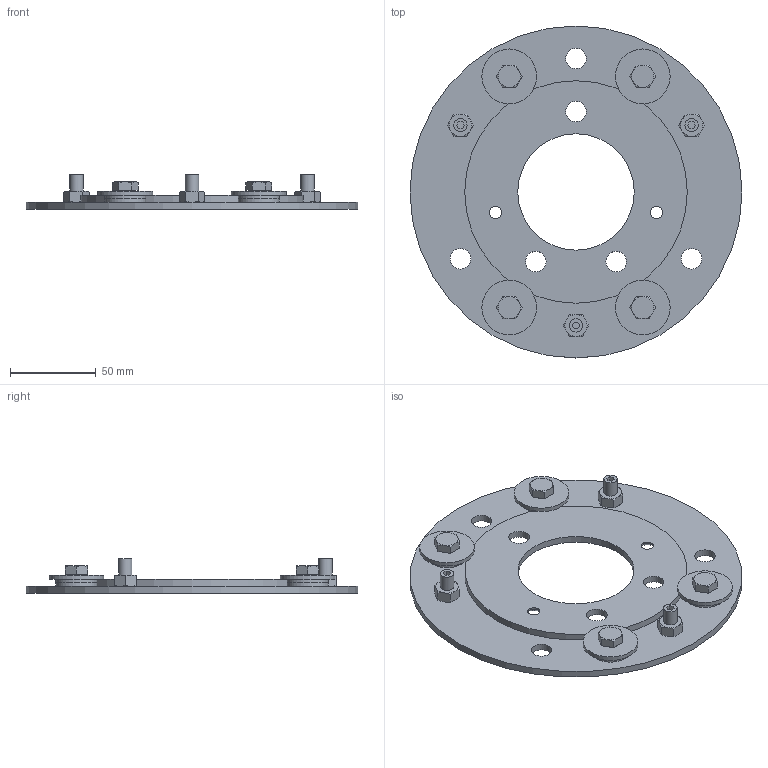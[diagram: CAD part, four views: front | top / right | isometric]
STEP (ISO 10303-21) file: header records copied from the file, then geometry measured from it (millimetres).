
FILE_DESCRIPTION(/* description */ (''),/* implementation_level */ '2;1');
FILE_NAME(/* name */ 'SH-FS-P_Floor_Suppoprts_fixing_system.stp',/* time_stamp */ '2025-11-14T10:21:05+01:00',/* author */ (''),/* organization */ (''),/* preprocessor_version */ 'ST-DEVELOPER v20',/* originating_system */ 'SIEMENS PLM Software NX2412.4001',/* authorisation */ '');
FILE_SCHEMA (('AP203_CONFIGURATION_CONTROLLED_3D_DESIGN_OF_MECHANICAL_PARTS_AND_ASSEMBLIES_MIM_LF { 1 0 10303 403 2 1 2}'));
Length unit declared in the file: millimetre
Products named in the file (1): AS007804_objects
Bounding box: 194 x 194 x 20 mm (x, y, z)
Volume: 130882.8 mm3; surface area: 83842.2 mm2
Topology: 24 solids, 24 shells, 265 faces, 548 edges, 342 vertices
Faces by surface type: plane 119, cone 89, cylinder 57
Full cylindrical faces by diameter (mm): 6.8 x7, 6.985 x3, 7.2 x2, 7.8 x3, 8 x4, 8.4 x12, 12 x6, 12.2 x4, 24 x8, 32 x4, 68 x1, 120 x1, 130 x1, 194 x1
Entity records: 6815 total; most frequent: CARTESIAN_POINT 1392, DIRECTION 1058, ORIENTED_EDGE 886, AXIS2_PLACEMENT_3D 469, EDGE_CURVE 443, EDGE_LOOP 426, VERTEX_POINT 323, FACE_BOUND 292
